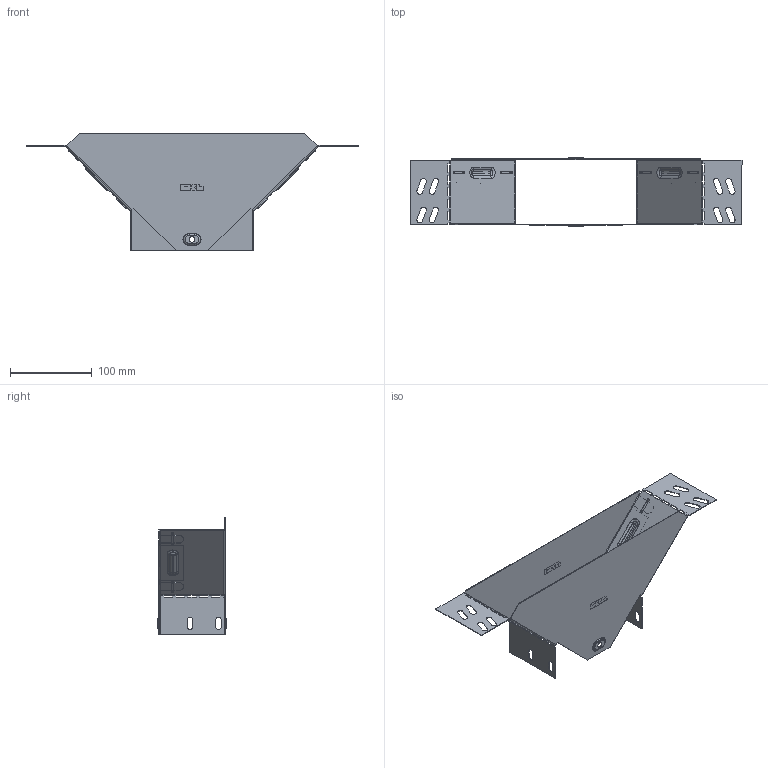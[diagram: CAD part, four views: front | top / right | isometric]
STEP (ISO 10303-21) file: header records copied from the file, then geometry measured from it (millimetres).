
FILE_DESCRIPTION (( 'STEP AP214' ), '1' );
FILE_NAME ('tn8015008_捘.STEP', '2019-06-10T08:00:55', ( '砐錪賧瘔蠈錪 Windows' ), ( '' ), 'SwSTEP 2.0', 'SolidWorks 2018', '' );
FILE_SCHEMA (( 'AUTOMOTIVE_DESIGN' ));
Length unit declared in the file: millimetre
Products named in the file (1): tn8015008_捘
Bounding box: 406.02 x 83.8 x 144 mm (x, y, z)
Volume: 71025.1 mm3; surface area: 180741.6 mm2
Topology: 2 solids, 2 shells, 650 faces, 1834 edges, 1164 vertices
Faces by surface type: plane 388, cylinder 196, torus 48, bspline 18
Entity records: 21837 total; most frequent: CARTESIAN_POINT 4607, ORIENTED_EDGE 3668, DIRECTION 3528, EDGE_CURVE 1834, VECTOR 1334, LINE 1334, VERTEX_POINT 1164, AXIS2_PLACEMENT_3D 1097
